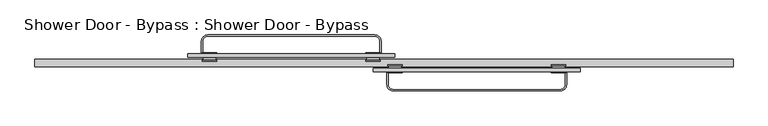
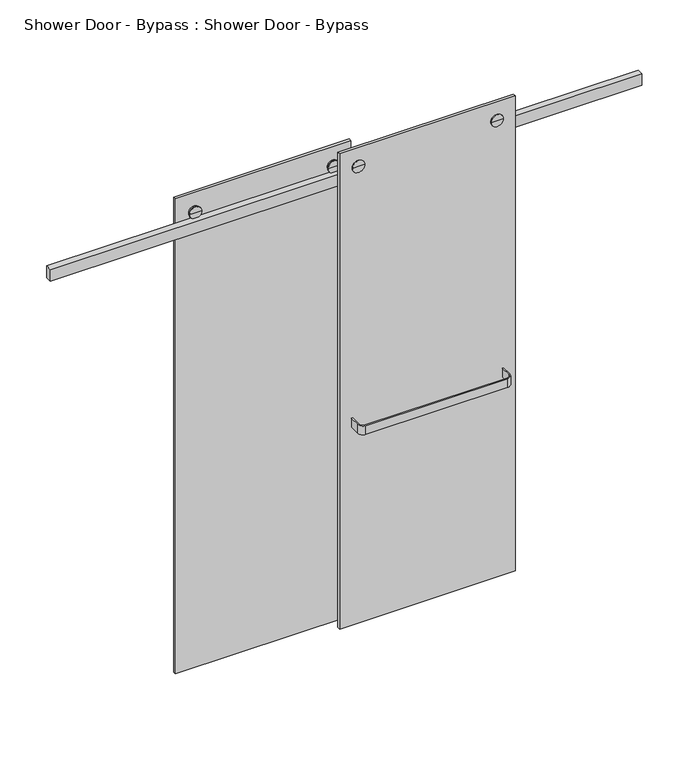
"""IFC4 building model written with IfcOpenShell, lengths in millimetres: plate geometry, Shower Door - Bypass : Shower Door - Bypass."""

import ifcopenshell
import ifcopenshell.guid

model = None  # the IFC model being written
_history = None  # IfcOwnerHistory: only IFC2X3 demands one
_inside = {}  # id of a spatial element -> (the spatial element, [elements in it])
_under = {}  # id of a project, library or spatial element -> (it, [spatial elements below it])
_declared = {}  # id of a project -> (the project, [libraries it declares])
_typed = {}  # id of a type object -> (the type object, [elements of that type])
_made_of = {}  # id of a material, layer set ... -> (it, [elements and type objects made of it])


def new_model(schema):
    """Start an empty IFC model of exactly this schema.

    Asked for "IFC4X3", IfcOpenShell would pick the latest addendum, in which some entities
    have other attributes; the version numbers below select the first issue.
    IFC2X3 requires an IfcOwnerHistory on every rooted entity: one is made here for all.
    """
    global model, _history
    if schema == "IFC4X3":
        model = ifcopenshell.file(schema_version=(4, 3, 0, 0))
    else:
        model = ifcopenshell.file(schema=schema)
    _inside.clear()
    _under.clear()
    _declared.clear()
    _typed.clear()
    _made_of.clear()
    _history = None
    if model.schema == "IFC2X3":
        org = make("IfcOrganization", Name="unknown")
        user = make(
            "IfcPersonAndOrganization",
            ThePerson=make("IfcPerson", FamilyName="unknown"),
            TheOrganization=org,
        )
        app = make(
            "IfcApplication",
            ApplicationDeveloper=org,
            Version="unknown",
            ApplicationFullName="unknown",
            ApplicationIdentifier="unknown",
        )
        _history = make(
            "IfcOwnerHistory",
            OwningUser=user,
            OwningApplication=app,
            ChangeAction="ADDED",
            CreationDate=0,
        )
    return model


def make(cls, **values):
    """One entity of the class cls with the attributes given. An attribute that is None is left unset."""
    return model.create_entity(
        cls, **{name: value for name, value in values.items() if value is not None}
    )


def rooted(cls, **values):
    """An entity with a GlobalId (a new one), such as an element, a storey or a relation."""
    return make(cls, GlobalId=ifcopenshell.guid.new(), OwnerHistory=_history, **values)


def si_unit(unit_type, name, prefix=None):
    """IfcSIUnit, for example si_unit("LENGTHUNIT", "METRE", prefix="MILLI")."""
    return make("IfcSIUnit", UnitType=unit_type, Prefix=prefix, Name=name)


def assignment(units):
    """IfcUnitAssignment: the units of a project."""
    return None if units is None else make("IfcUnitAssignment", Units=units)


def point(xyz):
    """IfcCartesianPoint."""
    return None if xyz is None else make("IfcCartesianPoint", Coordinates=xyz)


def direction(xyz):
    """IfcDirection."""
    return None if xyz is None else make("IfcDirection", DirectionRatios=xyz)


def frame(location, z_axis=None, x_axis=None):
    """IfcAxis2Placement3D, a coordinate frame: its origin and axes. An axis left out is left unset."""
    return make(
        "IfcAxis2Placement3D",
        Location=point(location),
        Axis=direction(z_axis),
        RefDirection=direction(x_axis),
    )


def frame_2d(location, x_axis=None):
    """IfcAxis2Placement2D, a coordinate frame in the plane: its origin and x axis."""
    return make(
        "IfcAxis2Placement2D", Location=point(location), RefDirection=direction(x_axis)
    )


def origin():
    """The frame at (0, 0, 0) with its axes left unset."""
    return frame((0.0, 0.0, 0.0))


def place(relative_to, where):
    """IfcLocalPlacement: puts the frame where relative to a parent placement (None: the world)."""
    return make(
        "IfcLocalPlacement", PlacementRelTo=relative_to, RelativePlacement=where
    )


def context(
    kind, dimensions, precision=None, world=None, true_north=None, identifier=None
):
    """IfcGeometricRepresentationContext, for example the 3D "Model" context."""
    return make(
        "IfcGeometricRepresentationContext",
        ContextIdentifier=identifier,
        ContextType=kind,
        CoordinateSpaceDimension=dimensions,
        Precision=precision,
        WorldCoordinateSystem=world,
        TrueNorth=true_north,
    )


def project(units=None, contexts=None):
    """IfcProject with its units and contexts."""
    return rooted(
        "IfcProject",
        Name="project",
        RepresentationContexts=contexts,
        UnitsInContext=assignment(units),
    )


def spatial(cls, under=None, at=None, **own):
    """A site, building, storey or space (cls), placed at a placement, below another one or the project."""
    s = rooted(cls, ObjectPlacement=at, **own)
    if under is not None:
        _under.setdefault(under.id(), (under, []))[1].append(s)
    return s


def polyline(points):
    """IfcPolyline through the points."""
    return make("IfcPolyline", Points=[point(p) for p in points])


def circle_curve(where, radius):
    """IfcCircle in the frame where."""
    return make("IfcCircle", Position=where, Radius=radius)


def trimmed(basis, trim1, trim2, sense, master):
    """IfcTrimmedCurve: the piece of a basis curve between two trims."""
    return make(
        "IfcTrimmedCurve",
        BasisCurve=basis,
        Trim1=trim1,
        Trim2=trim2,
        SenseAgreement=sense,
        MasterRepresentation=master,
    )


def segment(curve, same_sense, transition):
    """IfcCompositeCurveSegment."""
    return make(
        "IfcCompositeCurveSegment",
        Transition=transition,
        SameSense=same_sense,
        ParentCurve=curve,
    )


def composite_curve(segments, self_intersect=None):
    """IfcCompositeCurve: segments joined end to end."""
    return make("IfcCompositeCurve", Segments=segments, SelfIntersect=self_intersect)


def outline(outer, holes=None, kind="AREA"):
    """IfcArbitraryClosedProfileDef: a profile drawn as a closed curve; with holes, ...WithVoids."""
    if holes is None:
        return make("IfcArbitraryClosedProfileDef", ProfileType=kind, OuterCurve=outer)
    return make(
        "IfcArbitraryProfileDefWithVoids",
        ProfileType=kind,
        OuterCurve=outer,
        InnerCurves=holes,
    )


def extrude(swept, where, along, depth):
    """IfcExtrudedAreaSolid: the profile swept, set in the frame where, extruded along a direction by depth."""
    return make(
        "IfcExtrudedAreaSolid",
        SweptArea=swept,
        Position=where,
        ExtrudedDirection=direction(along),
        Depth=depth,
    )


def shape(context_of_items, identifier, shape_type, items):
    """IfcShapeRepresentation: the items that make up one representation, for example the "Body"."""
    return make(
        "IfcShapeRepresentation",
        ContextOfItems=context_of_items,
        RepresentationIdentifier=identifier,
        RepresentationType=shape_type,
        Items=items,
    )


def source(mapping_origin, context_of_items, identifier, shape_type, items):
    """IfcRepresentationMap: a shape defined once, which mapped items show again and again."""
    return make(
        "IfcRepresentationMap",
        MappingOrigin=mapping_origin,
        MappedRepresentation=shape(context_of_items, identifier, shape_type, items),
    )


def transform(
    local_origin,
    x_axis=None,
    y_axis=None,
    z_axis=None,
    scale=None,
    scale2=None,
    scale3=None,
    uniform=True,
):
    """IfcCartesianTransformationOperator3D, or its non-uniform kind. x_axis, y_axis, z_axis: its Axis1, 2, 3."""
    if uniform:
        return make(
            "IfcCartesianTransformationOperator3D",
            Axis1=direction(x_axis),
            Axis2=direction(y_axis),
            LocalOrigin=point(local_origin),
            Scale=scale,
            Axis3=direction(z_axis),
        )
    return make(
        "IfcCartesianTransformationOperator3DnonUniform",
        Axis1=direction(x_axis),
        Axis2=direction(y_axis),
        LocalOrigin=point(local_origin),
        Scale=scale,
        Axis3=direction(z_axis),
        Scale2=scale2,
        Scale3=scale3,
    )


def mapped(mapping_source, mapping_target):
    """IfcMappedItem: shows the shape of a source again, moved by a transform."""
    return make(
        "IfcMappedItem", MappingSource=mapping_source, MappingTarget=mapping_target
    )


def made_of(thing, what):
    """Note that an element or type object is made of a material, layer set ...; save() writes the relation."""
    if what is not None:
        _made_of.setdefault(what.id(), (what, []))[1].append(thing)
    return thing


def element(
    cls,
    number,
    at=None,
    inside=None,
    cuts=None,
    type_object=None,
    material=None,
    context=None,
    identifier="Body",
    shape_type=None,
    held_by="IfcProductDefinitionShape",
    body=None,
    shapes=None,
    **own,
):
    """One element of the class cls, such as IfcWall. Its Tag is "e" and its number.

    at: its placement. inside: the storey or other place that contains it. cuts: it is an
    opening in that element (IfcRelVoidsElement). A single representation is given by context,
    identifier, shape_type and body (its items); several are given by shapes. held_by: the class
    of the entity that holds the representations. save() writes the other relations.
    """
    e = rooted(cls, Tag="e%d" % number, ObjectPlacement=at, **own)
    if body is not None:
        shapes = [shape(context, identifier, shape_type, body)]
    if shapes is not None:
        e.Representation = make(held_by, Representations=shapes)
    if inside is not None:
        _inside.setdefault(inside.id(), (inside, []))[1].append(e)
    if cuts is not None:
        rooted(
            "IfcRelVoidsElement", RelatingBuildingElement=cuts, RelatedOpeningElement=e
        )
    if type_object is not None:
        _typed.setdefault(type_object.id(), (type_object, []))[1].append(e)
    return made_of(e, material)


def aggregate(whole, parts):
    """IfcRelAggregates: a whole, such as a stair, and the parts it consists of."""
    return rooted("IfcRelAggregates", RelatingObject=whole, RelatedObjects=parts)


def save(model, path):
    """Write the relations noted so far, then the file.

    IfcRelAggregates (storeys below a building ...), IfcRelContainedInSpatialStructure (elements
    in a storey), IfcRelDefinesByType, IfcRelAssociatesMaterial and IfcRelDeclares: one each for
    every whole, place, type object, material and project.
    """
    for whole, parts in _under.values():
        aggregate(whole, parts)
    for where, things in _inside.values():
        rooted(
            "IfcRelContainedInSpatialStructure",
            RelatedElements=things,
            RelatingStructure=where,
        )
    for kind, things in _typed.values():
        rooted("IfcRelDefinesByType", RelatedObjects=things, RelatingType=kind)
    for what, things in _made_of.values():
        rooted("IfcRelAssociatesMaterial", RelatedObjects=things, RelatingMaterial=what)
    for by, libraries in _declared.values():
        rooted("IfcRelDeclares", RelatingContext=by, RelatedDefinitions=libraries)
    model.write(path)


def plane_surface(at):
    """IfcPlane: the flat surface through the origin of the frame at, square to its z axis."""
    return make("IfcPlane", Position=at)


def cylinder_surface(at, radius):
    """IfcCylindricalSurface: all points at the distance radius from the z axis of the frame at."""
    return make("IfcCylindricalSurface", Position=at, Radius=radius)


def advanced_brep(points, edges, surfaces, faces):
    """IfcAdvancedBrep: a solid bounded by faces that lie on surfaces and meet in shared edges.

    An edge is (start, end): straight between two places in points (the first is 0);
    or (start, end, curve); or (start, end, curve, False) where it runs against its curve.
    A face is (place in surfaces, loops), or (place, loops, False) where it looks against
    its surface's normal. A loop lists edges by number (the first is 1), with a minus sign
    where the edge is run from its end to its start. The first loop is the outer one.
    """
    corners = [point(p) for p in points]
    vertices = [make("IfcVertexPoint", VertexGeometry=c) for c in corners]
    made = []
    for start, end, *more in edges:
        made.append(
            make(
                "IfcEdgeCurve",
                EdgeStart=vertices[start],
                EdgeEnd=vertices[end],
                EdgeGeometry=more[0] if more else make("IfcPolyline", Points=[corners[start], corners[end]]),
                SameSense=more[1] if len(more) > 1 else True,
            )
        )
    hull = []
    for where, loops, *sense in faces:
        bounds = []
        for j, loop in enumerate(loops):
            ring = [make("IfcOrientedEdge", EdgeElement=made[abs(k) - 1], Orientation=k > 0) for k in loop]
            bounds.append(
                make(
                    "IfcFaceOuterBound" if j == 0 else "IfcFaceBound",
                    Bound=make("IfcEdgeLoop", EdgeList=ring),
                    Orientation=True,
                )
            )
        hull.append(make("IfcAdvancedFace", Bounds=bounds, FaceSurface=surfaces[where], SameSense=sense[0] if sense else True))
    return make("IfcAdvancedBrep", Outer=make("IfcClosedShell", CfsFaces=hull))


def shower_door_bypass_shower_door_bypass_8a8439de(model_context):
    return source(origin(), model_context, "Body", "SolidModel", [
        extrude(outline(composite_curve([segment(polyline([(632.6124, 6.35), (637.3876, 6.35), (637.3876, -38.1)]), True, "CONTINUOUS"), segment(trimmed(circle_curve(frame_2d((615.95, -38.1)), 21.4376), [point((637.3876, -38.1))], [point((615.95, -59.5376))], False, "CARTESIAN"), True, "CONTINUOUS"), segment(polyline([(615.95, -59.5376), (31.75, -59.5376)]), True, "CONTINUOUS"), segment(trimmed(circle_curve(frame_2d((31.75, -38.1)), 21.4376), [point((31.75, -59.5376))], [point((10.3124, -38.1))], False, "CARTESIAN"), True, "CONTINUOUS"), segment(polyline([(10.3124, -38.1), (10.3124, 6.35), (15.0876, 6.35), (15.0876, -38.1)]), True, "CONTINUOUS"), segment(trimmed(circle_curve(frame_2d((31.75, -38.1)), 16.6624), [point((15.0876, -38.1))], [point((31.75, -54.7624))], True, "CARTESIAN"), True, "CONTINUOUS"), segment(polyline([(31.75, -54.7624), (615.95, -54.7624)]), True, "CONTINUOUS"), segment(trimmed(circle_curve(frame_2d((615.95, -38.1)), 16.6624), [point((615.95, -54.7624))], [point((632.6124, -38.1))], True, "CARTESIAN"), True, "CONTINUOUS"), segment(polyline([(632.6124, -38.1), (632.6124, 6.35)]), True, "CONTINUOUS")], self_intersect=False)), frame((0.0, 0.0, 876.3), z_axis=(0.0, 0.0, 1.0), x_axis=(1.0, 0.0, 0.0)), (0.0, 0.0, 1.0), 38.1),
        extrude(outline(composite_curve([segment(polyline([(-632.6124, 69.85), (-637.3876, 69.85), (-637.3876, 114.3)]), True, "CONTINUOUS"), segment(trimmed(circle_curve(frame_2d((-615.95, 114.3)), 21.4376), [point((-637.3876, 114.3))], [point((-615.95, 135.7376))], False, "CARTESIAN"), True, "CONTINUOUS"), segment(polyline([(-615.95, 135.7376), (-31.75, 135.7376)]), True, "CONTINUOUS"), segment(trimmed(circle_curve(frame_2d((-31.75, 114.3)), 21.4376), [point((-31.75, 135.7376))], [point((-10.3124, 114.3))], False, "CARTESIAN"), True, "CONTINUOUS"), segment(polyline([(-10.3124, 114.3), (-10.3124, 69.85), (-15.0876, 69.85), (-15.0876, 114.3)]), True, "CONTINUOUS"), segment(trimmed(circle_curve(frame_2d((-31.75, 114.3)), 16.6624), [point((-15.0876, 114.3))], [point((-31.75, 130.9624))], True, "CARTESIAN"), True, "CONTINUOUS"), segment(polyline([(-31.75, 130.9624), (-615.95, 130.9624)]), True, "CONTINUOUS"), segment(trimmed(circle_curve(frame_2d((-615.95, 114.3)), 16.6624), [point((-615.95, 130.9624))], [point((-632.6124, 114.3))], True, "CARTESIAN"), True, "CONTINUOUS"), segment(polyline([(-632.6124, 114.3), (-632.6124, 69.85)]), True, "CONTINUOUS")], self_intersect=False)), frame((0.0, 0.0, 876.3), z_axis=(0.0, 0.0, 1.0), x_axis=(1.0, 0.0, 0.0)), (0.0, 0.0, 1.0), 38.1),
        advanced_brep(
        [(-12.7, 44.45, 2003.425), (-38.1, 44.45, 2003.425), (-63.5, 44.45, 2003.425), (-12.7, 47.625, 2003.425), (-63.5, 47.625, 2003.425), (-15.875, 47.625, 2003.425), (-60.325, 47.625, 2003.425), (-15.875, 57.15, 2003.425), (-60.325, 57.15, 2003.425), (-38.1, 57.15, 2003.425)],
        [
            (0, 1),
            (1, 2),
            (2, 0, circle_curve(frame((-38.1, 44.45, 2003.425), z_axis=(0.0, -1.0, 0.0), x_axis=(-1.0, 0.0, 0.0)), 25.4)),
            (0, 2, circle_curve(frame((-38.1, 44.45, 2003.425), z_axis=(0.0, -1.0, 0.0), x_axis=(-1.0, 0.0, 0.0)), 25.4)),
            (3, 0),
            (2, 4),
            (4, 3, circle_curve(frame((-38.1, 47.625, 2003.425), z_axis=(0.0, -1.0, 0.0), x_axis=(-1.0, 0.0, 0.0)), 25.4)),
            (3, 4, circle_curve(frame((-38.1, 47.625, 2003.425), z_axis=(0.0, -1.0, 0.0), x_axis=(-1.0, 0.0, 0.0)), 25.4)),
            (5, 3),
            (4, 6),
            (6, 5, circle_curve(frame((-38.1, 47.625, 2003.425), z_axis=(0.0, -1.0, 0.0), x_axis=(-1.0, 0.0, 0.0)), 22.225)),
            (5, 6, circle_curve(frame((-38.1, 47.625, 2003.425), z_axis=(0.0, -1.0, 0.0), x_axis=(-1.0, 0.0, 0.0)), 22.225)),
            (7, 5),
            (6, 8),
            (8, 7, circle_curve(frame((-38.1, 57.15, 2003.425), z_axis=(0.0, -1.0, 0.0), x_axis=(-1.0, 0.0, 0.0)), 22.225)),
            (7, 8, circle_curve(frame((-38.1, 57.15, 2003.425), z_axis=(0.0, -1.0, 0.0), x_axis=(-1.0, 0.0, 0.0)), 22.225)),
            (9, 7),
            (8, 9),
        ],
        [
            plane_surface(frame((-38.1, 44.45, 2003.425), z_axis=(0.0, -1.0, 0.0), x_axis=(-1.0, 0.0, 0.0))),
            cylinder_surface(frame((-38.1, 69.85, 2003.425), z_axis=(0.0, 1.0, 0.0), x_axis=(-1.0, 0.0, 0.0)), 25.4),
            plane_surface(frame((-38.1, 47.625, 2003.425), z_axis=(0.0, 1.0, 0.0), x_axis=(-1.0, 0.0, 0.0))),
            cylinder_surface(frame((-38.1, 69.85, 2003.425), z_axis=(0.0, 1.0, 0.0), x_axis=(-1.0, 0.0, 0.0)), 22.225),
            plane_surface(frame((-38.1, 57.15, 2003.425), z_axis=(0.0, 1.0, 0.0), x_axis=(-1.0, 0.0, 0.0))),
        ],
        [
            (0, [[1, 2, 3]]),
            (0, [[-2, -1, 4]]),
            (1, [[5, -3, 6, 7]]),
            (1, [[-6, -4, -5, 8]]),
            (2, [[9, -7, 10, 11]]),
            (2, [[-10, -8, -9, 12]]),
            (3, [[13, -11, 14, 15]]),
            (3, [[-14, -12, -13, 16]]),
            (4, [[17, -15, 18]]),
            (4, [[-18, -16, -17]]),
        ],
    ),
        advanced_brep(
        [(-38.1, 73.025, 2003.425), (-12.7, 73.025, 2003.425), (-63.5, 73.025, 2003.425), (-12.7, 69.85, 2003.425), (-38.1, 69.85, 2003.425), (-63.5, 69.85, 2003.425)],
        [
            (0, 1),
            (1, 2, circle_curve(frame((-38.1, 73.025, 2003.425), z_axis=(0.0, 1.0, 0.0), x_axis=(-1.0, 0.0, 0.0)), 25.4)),
            (2, 0),
            (2, 1, circle_curve(frame((-38.1, 73.025, 2003.425), z_axis=(0.0, 1.0, 0.0), x_axis=(-1.0, 0.0, 0.0)), 25.4)),
            (3, 4),
            (4, 5),
            (5, 3, circle_curve(frame((-38.1, 69.85, 2003.425), z_axis=(0.0, -1.0, 0.0), x_axis=(-1.0, 0.0, 0.0)), 25.4)),
            (3, 5, circle_curve(frame((-38.1, 69.85, 2003.425), z_axis=(0.0, -1.0, 0.0), x_axis=(-1.0, 0.0, 0.0)), 25.4)),
            (1, 3),
            (5, 2),
        ],
        [
            plane_surface(frame((-38.1, 73.025, 2003.425), z_axis=(0.0, 1.0, 0.0), x_axis=(-1.0, 0.0, 0.0))),
            plane_surface(frame((-38.1, 69.85, 2003.425), z_axis=(0.0, -1.0, 0.0), x_axis=(-1.0, 0.0, 0.0))),
            cylinder_surface(frame((-38.1, 69.85, 2003.425), z_axis=(0.0, 1.0, 0.0), x_axis=(-1.0, 0.0, 0.0)), 25.4),
        ],
        [
            (0, [[1, 2, 3]]),
            (0, [[-3, 4, -1]]),
            (1, [[5, 6, 7]]),
            (1, [[-6, -5, 8]]),
            (2, [[9, -7, 10, -2]]),
            (2, [[-10, -8, -9, -4]]),
        ],
    ),
        advanced_brep(
        [(-635.0, 44.45, 2003.425), (-584.2, 44.45, 2003.425), (-609.6, 44.45, 2003.425), (-635.0, 47.625, 2003.425), (-584.2, 47.625, 2003.425), (-631.825, 47.625, 2003.425), (-587.375, 47.625, 2003.425), (-631.825, 57.15, 2003.425), (-587.375, 57.15, 2003.425), (-609.6, 57.15, 2003.425)],
        [
            (0, 1, circle_curve(frame((-609.6, 44.45, 2003.425), z_axis=(0.0, -1.0, 0.0), x_axis=(1.0, 0.0, 0.0)), 25.4)),
            (1, 2),
            (2, 0),
            (1, 0, circle_curve(frame((-609.6, 44.45, 2003.425), z_axis=(0.0, -1.0, 0.0), x_axis=(1.0, 0.0, 0.0)), 25.4)),
            (3, 4, circle_curve(frame((-609.6, 47.625, 2003.425), z_axis=(0.0, -1.0, 0.0), x_axis=(1.0, 0.0, 0.0)), 25.4)),
            (4, 1),
            (0, 3),
            (4, 3, circle_curve(frame((-609.6, 47.625, 2003.425), z_axis=(0.0, -1.0, 0.0), x_axis=(1.0, 0.0, 0.0)), 25.4)),
            (5, 6, circle_curve(frame((-609.6, 47.625, 2003.425), z_axis=(0.0, -1.0, 0.0), x_axis=(1.0, 0.0, 0.0)), 22.225)),
            (6, 4),
            (3, 5),
            (6, 5, circle_curve(frame((-609.6, 47.625, 2003.425), z_axis=(0.0, -1.0, 0.0), x_axis=(1.0, 0.0, 0.0)), 22.225)),
            (7, 8, circle_curve(frame((-609.6, 57.15, 2003.425), z_axis=(0.0, -1.0, 0.0), x_axis=(1.0, 0.0, 0.0)), 22.225)),
            (8, 6),
            (5, 7),
            (8, 7, circle_curve(frame((-609.6, 57.15, 2003.425), z_axis=(0.0, -1.0, 0.0), x_axis=(1.0, 0.0, 0.0)), 22.225)),
            (9, 8),
            (7, 9),
        ],
        [
            plane_surface(frame((-609.6, 44.45, 2003.425), z_axis=(0.0, -1.0, 0.0), x_axis=(1.0, 0.0, 0.0))),
            cylinder_surface(frame((-609.6, 69.85, 2003.425), z_axis=(0.0, 1.0, 0.0), x_axis=(1.0, 0.0, 0.0)), 25.4),
            plane_surface(frame((-609.6, 47.625, 2003.425), z_axis=(0.0, 1.0, 0.0), x_axis=(1.0, 0.0, 0.0))),
            cylinder_surface(frame((-609.6, 69.85, 2003.425), z_axis=(0.0, 1.0, 0.0), x_axis=(1.0, 0.0, 0.0)), 22.225),
            plane_surface(frame((-609.6, 57.15, 2003.425), z_axis=(0.0, 1.0, 0.0), x_axis=(1.0, 0.0, 0.0))),
        ],
        [
            (0, [[1, 2, 3]]),
            (0, [[4, -3, -2]]),
            (1, [[5, 6, -1, 7]]),
            (1, [[8, -7, -4, -6]]),
            (2, [[9, 10, -5, 11]]),
            (2, [[12, -11, -8, -10]]),
            (3, [[13, 14, -9, 15]]),
            (3, [[16, -15, -12, -14]]),
            (4, [[17, -13, 18]]),
            (4, [[-18, -16, -17]]),
        ],
    ),
        advanced_brep(
        [(-609.6, 73.025, 2003.425), (-584.2, 73.025, 2003.425), (-635.0, 73.025, 2003.425), (-635.0, 69.85, 2003.425), (-584.2, 69.85, 2003.425), (-609.6, 69.85, 2003.425)],
        [
            (0, 1),
            (1, 2, circle_curve(frame((-609.6, 73.025, 2003.425), z_axis=(0.0, 1.0, 0.0), x_axis=(1.0, 0.0, 0.0)), 25.4)),
            (2, 0),
            (2, 1, circle_curve(frame((-609.6, 73.025, 2003.425), z_axis=(0.0, 1.0, 0.0), x_axis=(1.0, 0.0, 0.0)), 25.4)),
            (3, 4, circle_curve(frame((-609.6, 69.85, 2003.425), z_axis=(0.0, -1.0, 0.0), x_axis=(1.0, 0.0, 0.0)), 25.4)),
            (4, 5),
            (5, 3),
            (4, 3, circle_curve(frame((-609.6, 69.85, 2003.425), z_axis=(0.0, -1.0, 0.0), x_axis=(1.0, 0.0, 0.0)), 25.4)),
            (1, 4),
            (3, 2),
        ],
        [
            plane_surface(frame((-609.6, 73.025, 2003.425), z_axis=(0.0, 1.0, 0.0), x_axis=(1.0, 0.0, 0.0))),
            plane_surface(frame((-609.6, 69.85, 2003.425), z_axis=(0.0, -1.0, 0.0), x_axis=(1.0, 0.0, 0.0))),
            cylinder_surface(frame((-609.6, 69.85, 2003.425), z_axis=(0.0, 1.0, 0.0), x_axis=(1.0, 0.0, 0.0)), 25.4),
        ],
        [
            (0, [[1, 2, 3]]),
            (0, [[-3, 4, -1]]),
            (1, [[5, 6, 7]]),
            (1, [[8, -7, -6]]),
            (2, [[-2, 9, -5, 10]]),
            (2, [[-4, -10, -8, -9]]),
        ],
    ),
        extrude(outline(polyline([(38.1, 69.85), (38.1, 57.15), (-685.8, 57.15), (-685.8, 69.85), (38.1, 69.85)])), frame((0.0, 0.0, 12.7), z_axis=(0.0, 0.0, 1.0), x_axis=(1.0, 0.0, 0.0)), (0.0, 0.0, 1.0), 2070.1),
        advanced_brep(
        [(635.0, 31.75, 2003.425), (584.2, 31.75, 2003.425), (609.6, 31.75, 2003.425), (635.0, 28.575, 2003.425), (584.2, 28.575, 2003.425), (631.825, 28.575, 2003.425), (587.375, 28.575, 2003.425), (631.825, 19.05, 2003.425), (587.375, 19.05, 2003.425), (609.6, 19.05, 2003.425)],
        [
            (0, 1, circle_curve(frame((609.6, 31.75, 2003.425), z_axis=(0.0, 1.0, 0.0), x_axis=(-1.0, 0.0, 0.0)), 25.4)),
            (1, 2),
            (2, 0),
            (1, 0, circle_curve(frame((609.6, 31.75, 2003.425), z_axis=(0.0, 1.0, 0.0), x_axis=(-1.0, 0.0, 0.0)), 25.4)),
            (3, 4, circle_curve(frame((609.6, 28.575, 2003.425), z_axis=(0.0, 1.0, 0.0), x_axis=(-1.0, 0.0, 0.0)), 25.4)),
            (4, 1),
            (0, 3),
            (4, 3, circle_curve(frame((609.6, 28.575, 2003.425), z_axis=(0.0, 1.0, 0.0), x_axis=(-1.0, 0.0, 0.0)), 25.4)),
            (5, 6, circle_curve(frame((609.6, 28.575, 2003.425), z_axis=(0.0, 1.0, 0.0), x_axis=(-1.0, 0.0, 0.0)), 22.225)),
            (6, 4),
            (3, 5),
            (6, 5, circle_curve(frame((609.6, 28.575, 2003.425), z_axis=(0.0, 1.0, 0.0), x_axis=(-1.0, 0.0, 0.0)), 22.225)),
            (7, 8, circle_curve(frame((609.6, 19.05, 2003.425), z_axis=(0.0, 1.0, 0.0), x_axis=(-1.0, 0.0, 0.0)), 22.225)),
            (8, 6),
            (5, 7),
            (8, 7, circle_curve(frame((609.6, 19.05, 2003.425), z_axis=(0.0, 1.0, 0.0), x_axis=(-1.0, 0.0, 0.0)), 22.225)),
            (9, 8),
            (7, 9),
        ],
        [
            plane_surface(frame((609.6, 31.75, 2003.425), z_axis=(0.0, 1.0, 0.0), x_axis=(-1.0, 0.0, 0.0))),
            cylinder_surface(frame((609.6, 6.35, 2003.425), z_axis=(0.0, -1.0, 0.0), x_axis=(-1.0, 0.0, 0.0)), 25.4),
            plane_surface(frame((609.6, 28.575, 2003.425), z_axis=(0.0, -1.0, 0.0), x_axis=(-1.0, 0.0, 0.0))),
            cylinder_surface(frame((609.6, 6.35, 2003.425), z_axis=(0.0, -1.0, 0.0), x_axis=(-1.0, 0.0, 0.0)), 22.225),
            plane_surface(frame((609.6, 19.05, 2003.425), z_axis=(0.0, -1.0, 0.0), x_axis=(-1.0, 0.0, 0.0))),
        ],
        [
            (0, [[1, 2, 3]]),
            (0, [[4, -3, -2]]),
            (1, [[5, 6, -1, 7]]),
            (1, [[8, -7, -4, -6]]),
            (2, [[9, 10, -5, 11]]),
            (2, [[12, -11, -8, -10]]),
            (3, [[13, 14, -9, 15]]),
            (3, [[16, -15, -12, -14]]),
            (4, [[17, -13, 18]]),
            (4, [[-18, -16, -17]]),
        ],
    ),
        advanced_brep(
        [(609.6, 3.175, 2003.425), (584.2, 3.175, 2003.425), (635.0, 3.175, 2003.425), (635.0, 6.35, 2003.425), (584.2, 6.35, 2003.425), (609.6, 6.35, 2003.425)],
        [
            (0, 1),
            (1, 2, circle_curve(frame((609.6, 3.175, 2003.425), z_axis=(0.0, -1.0, 0.0), x_axis=(-1.0, 0.0, 0.0)), 25.4)),
            (2, 0),
            (2, 1, circle_curve(frame((609.6, 3.175, 2003.425), z_axis=(0.0, -1.0, 0.0), x_axis=(-1.0, 0.0, 0.0)), 25.4)),
            (3, 4, circle_curve(frame((609.6, 6.35, 2003.425), z_axis=(0.0, 1.0, 0.0), x_axis=(-1.0, 0.0, 0.0)), 25.4)),
            (4, 5),
            (5, 3),
            (4, 3, circle_curve(frame((609.6, 6.35, 2003.425), z_axis=(0.0, 1.0, 0.0), x_axis=(-1.0, 0.0, 0.0)), 25.4)),
            (1, 4),
            (3, 2),
        ],
        [
            plane_surface(frame((609.6, 3.175, 2003.425), z_axis=(0.0, -1.0, 0.0), x_axis=(-1.0, 0.0, 0.0))),
            plane_surface(frame((609.6, 6.35, 2003.425), z_axis=(0.0, 1.0, 0.0), x_axis=(-1.0, 0.0, 0.0))),
            cylinder_surface(frame((609.6, 6.35, 2003.425), z_axis=(0.0, -1.0, 0.0), x_axis=(-1.0, 0.0, 0.0)), 25.4),
        ],
        [
            (0, [[1, 2, 3]]),
            (0, [[-3, 4, -1]]),
            (1, [[5, 6, 7]]),
            (1, [[8, -7, -6]]),
            (2, [[-2, 9, -5, 10]]),
            (2, [[-4, -10, -8, -9]]),
        ],
    ),
        advanced_brep(
        [(12.7, 31.75, 2003.425), (38.1, 31.75, 2003.425), (63.5, 31.75, 2003.425), (12.7, 28.575, 2003.425), (63.5, 28.575, 2003.425), (15.875, 28.575, 2003.425), (60.325, 28.575, 2003.425), (15.875, 19.05, 2003.425), (60.325, 19.05, 2003.425), (38.1, 19.05, 2003.425)],
        [
            (0, 1),
            (1, 2),
            (2, 0, circle_curve(frame((38.1, 31.75, 2003.425), z_axis=(0.0, 1.0, 0.0), x_axis=(1.0, 0.0, 0.0)), 25.4)),
            (0, 2, circle_curve(frame((38.1, 31.75, 2003.425), z_axis=(0.0, 1.0, 0.0), x_axis=(1.0, 0.0, 0.0)), 25.4)),
            (3, 0),
            (2, 4),
            (4, 3, circle_curve(frame((38.1, 28.575, 2003.425), z_axis=(0.0, 1.0, 0.0), x_axis=(1.0, 0.0, 0.0)), 25.4)),
            (3, 4, circle_curve(frame((38.1, 28.575, 2003.425), z_axis=(0.0, 1.0, 0.0), x_axis=(1.0, 0.0, 0.0)), 25.4)),
            (5, 3),
            (4, 6),
            (6, 5, circle_curve(frame((38.1, 28.575, 2003.425), z_axis=(0.0, 1.0, 0.0), x_axis=(1.0, 0.0, 0.0)), 22.225)),
            (5, 6, circle_curve(frame((38.1, 28.575, 2003.425), z_axis=(0.0, 1.0, 0.0), x_axis=(1.0, 0.0, 0.0)), 22.225)),
            (7, 5),
            (6, 8),
            (8, 7, circle_curve(frame((38.1, 19.05, 2003.425), z_axis=(0.0, 1.0, 0.0), x_axis=(1.0, 0.0, 0.0)), 22.225)),
            (7, 8, circle_curve(frame((38.1, 19.05, 2003.425), z_axis=(0.0, 1.0, 0.0), x_axis=(1.0, 0.0, 0.0)), 22.225)),
            (9, 7),
            (8, 9),
        ],
        [
            plane_surface(frame((38.1, 31.75, 2003.425), z_axis=(0.0, 1.0, 0.0), x_axis=(1.0, 0.0, 0.0))),
            cylinder_surface(frame((38.1, 6.35, 2003.425), z_axis=(0.0, -1.0, 0.0), x_axis=(1.0, 0.0, 0.0)), 25.4),
            plane_surface(frame((38.1, 28.575, 2003.425), z_axis=(0.0, -1.0, 0.0), x_axis=(1.0, 0.0, 0.0))),
            cylinder_surface(frame((38.1, 6.35, 2003.425), z_axis=(0.0, -1.0, 0.0), x_axis=(1.0, 0.0, 0.0)), 22.225),
            plane_surface(frame((38.1, 19.05, 2003.425), z_axis=(0.0, -1.0, 0.0), x_axis=(1.0, 0.0, 0.0))),
        ],
        [
            (0, [[1, 2, 3]]),
            (0, [[-2, -1, 4]]),
            (1, [[5, -3, 6, 7]]),
            (1, [[-6, -4, -5, 8]]),
            (2, [[9, -7, 10, 11]]),
            (2, [[-10, -8, -9, 12]]),
            (3, [[13, -11, 14, 15]]),
            (3, [[-14, -12, -13, 16]]),
            (4, [[17, -15, 18]]),
            (4, [[-18, -16, -17]]),
        ],
    ),
        advanced_brep(
        [(38.1, 3.175, 2003.425), (12.7, 3.175, 2003.425), (63.5, 3.175, 2003.425), (12.7, 6.35, 2003.425), (38.1, 6.35, 2003.425), (63.5, 6.35, 2003.425)],
        [
            (0, 1),
            (1, 2, circle_curve(frame((38.1, 3.175, 2003.425), z_axis=(0.0, -1.0, 0.0), x_axis=(1.0, 0.0, 0.0)), 25.4)),
            (2, 0),
            (2, 1, circle_curve(frame((38.1, 3.175, 2003.425), z_axis=(0.0, -1.0, 0.0), x_axis=(1.0, 0.0, 0.0)), 25.4)),
            (3, 4),
            (4, 5),
            (5, 3, circle_curve(frame((38.1, 6.35, 2003.425), z_axis=(0.0, 1.0, 0.0), x_axis=(1.0, 0.0, 0.0)), 25.4)),
            (3, 5, circle_curve(frame((38.1, 6.35, 2003.425), z_axis=(0.0, 1.0, 0.0), x_axis=(1.0, 0.0, 0.0)), 25.4)),
            (1, 3),
            (5, 2),
        ],
        [
            plane_surface(frame((38.1, 3.175, 2003.425), z_axis=(0.0, -1.0, 0.0), x_axis=(1.0, 0.0, 0.0))),
            plane_surface(frame((38.1, 6.35, 2003.425), z_axis=(0.0, 1.0, 0.0), x_axis=(1.0, 0.0, 0.0))),
            cylinder_surface(frame((38.1, 6.35, 2003.425), z_axis=(0.0, -1.0, 0.0), x_axis=(1.0, 0.0, 0.0)), 25.4),
        ],
        [
            (0, [[1, 2, 3]]),
            (0, [[-3, 4, -1]]),
            (1, [[5, 6, 7]]),
            (1, [[-6, -5, 8]]),
            (2, [[9, -7, 10, -2]]),
            (2, [[-10, -8, -9, -4]]),
        ],
    ),
        extrude(outline(polyline([(685.8, 6.35), (-38.1, 6.35), (-38.1, 19.05), (685.8, 19.05), (685.8, 6.35)])), frame((0.0, 0.0, 12.7), z_axis=(0.0, 0.0, 1.0), x_axis=(1.0, 0.0, 0.0)), (0.0, 0.0, 1.0), 2070.1),
        extrude(outline(polyline([(1219.2, 25.4), (-1219.2, 25.4), (-1219.2, 50.8), (1219.2, 50.8), (1219.2, 25.4)])), frame((0.0, 0.0, 1930.4), z_axis=(0.0, 0.0, 1.0), x_axis=(1.0, 0.0, 0.0)), (0.0, 0.0, 1.0), 50.8),
    ])


if __name__ == "__main__":
    model = new_model("IFC4")
    model_context = context("Model", 3, world=origin())
    ifc_project = project(units=[si_unit("LENGTHUNIT", "METRE", prefix="MILLI")], contexts=[model_context])
    site = spatial("IfcSite", under=ifc_project)
    building = spatial("IfcBuilding", under=site)
    placement = place(None, origin())
    shower_door_bypass_shower_door_bypass_shape = shower_door_bypass_shower_door_bypass_8a8439de(model_context)
    element("IfcPlate", 1, ObjectType="Shower Door - Bypass : Shower Door - Bypass", at=placement, inside=building, context=model_context, shape_type="MappedRepresentation", body=[
        mapped(shower_door_bypass_shower_door_bypass_shape, transform((0.0, 0.0, 0.0), x_axis=(1.0, 0.0, 0.0), y_axis=(0.0, 1.0, 0.0), z_axis=(0.0, 0.0, 1.0))),
    ])
    save(model, "model.ifc")
